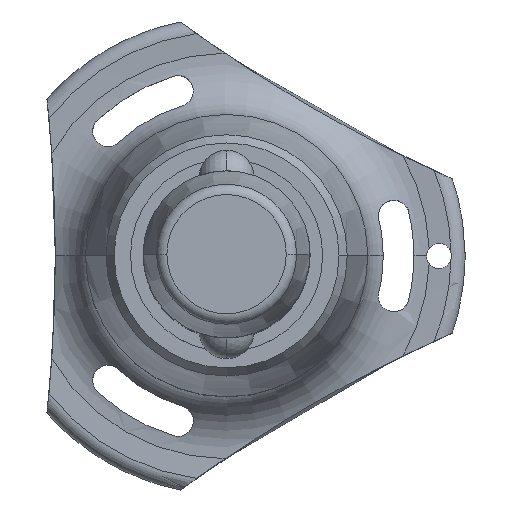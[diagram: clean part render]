
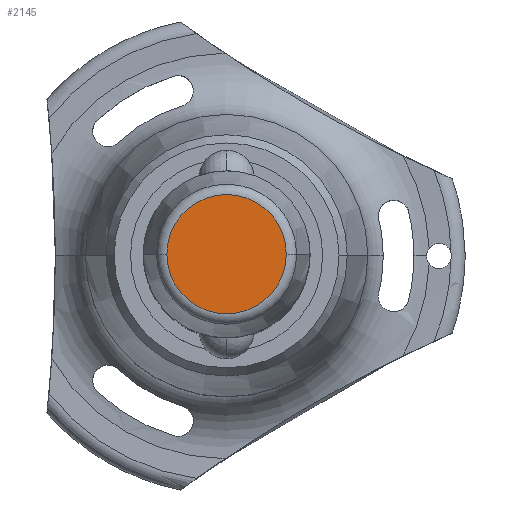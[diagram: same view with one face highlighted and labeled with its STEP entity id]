
A CAD part, top view. The second image highlights one B-rep face of the part: STEP entity #2145.
In plain terms, the highlighted planar face has unit normal (0, 0, 1).
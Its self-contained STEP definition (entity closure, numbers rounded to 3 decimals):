
#69 = PLANE ( 'NONE',  #673 ) ;
#84 = DIRECTION ( 'NONE',  ( 0., 0., 1. ) ) ;
#102 = EDGE_CURVE ( 'NONE', #2733, #1547, #2409, .T. ) ;
#389 = AXIS2_PLACEMENT_3D ( 'NONE', #2348, #2800, #744 ) ;
#673 = AXIS2_PLACEMENT_3D ( 'NONE', #1687, #84, #1674 ) ;
#707 = CARTESIAN_POINT ( 'NONE',  ( -7.144, 0., 20.5 ) ) ;
#729 = AXIS2_PLACEMENT_3D ( 'NONE', #2863, #2170, #2849 ) ;
#744 = DIRECTION ( 'NONE',  ( 1., 0., 0. ) ) ;
#972 = FACE_OUTER_BOUND ( 'NONE', #1550, .T. ) ;
#1348 = CARTESIAN_POINT ( 'NONE',  ( 7.144, 0., 20.5 ) ) ;
#1380 = ORIENTED_EDGE ( 'NONE', *, *, #102, .T. ) ;
#1547 = VERTEX_POINT ( 'NONE', #707 ) ;
#1550 = EDGE_LOOP ( 'NONE', ( #1380, #2036 ) ) ;
#1674 = DIRECTION ( 'NONE',  ( 1., 0., 0. ) ) ;
#1687 = CARTESIAN_POINT ( 'NONE',  ( 0., 0., 20.5 ) ) ;
#2036 = ORIENTED_EDGE ( 'NONE', *, *, #2496, .T. ) ;
#2145 = ADVANCED_FACE ( 'NONE', ( #972 ), #69, .T. ) ;
#2170 = DIRECTION ( 'NONE',  ( 0., 0., 1. ) ) ;
#2348 = CARTESIAN_POINT ( 'NONE',  ( 0., 0., 20.5 ) ) ;
#2409 = CIRCLE ( 'NONE', #729, 7.144 ) ;
#2496 = EDGE_CURVE ( 'NONE', #1547, #2733, #2907, .T. ) ;
#2733 = VERTEX_POINT ( 'NONE', #1348 ) ;
#2800 = DIRECTION ( 'NONE',  ( 0., 0., 1. ) ) ;
#2849 = DIRECTION ( 'NONE',  ( 1., 0., 0. ) ) ;
#2863 = CARTESIAN_POINT ( 'NONE',  ( 0., 0., 20.5 ) ) ;
#2907 = CIRCLE ( 'NONE', #389, 7.144 ) ;
